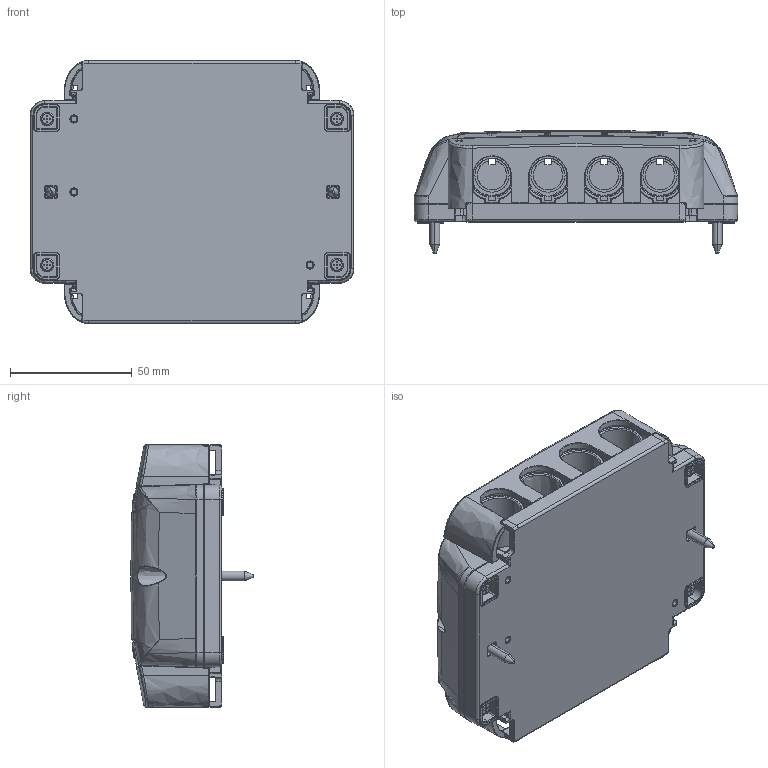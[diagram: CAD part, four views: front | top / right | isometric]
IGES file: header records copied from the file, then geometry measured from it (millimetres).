
Start section: SolidWorks IGES file using NURBS representation for surfaces
Global section: file name: C:\Users\lynn\Desktop\JB3\JB3.IGS; native system: SolidWorks 2015; preprocessor: SolidWorks 2015; author: lynn; date: 200114.090538; units: millimetre
Bounding box: 133 x 50.28 x 108 mm (x, y, z)
Surface area: 145856 mm2 (no closed solid volume)
Topology: 0 solids, 0 shells, 2836 faces, 24681 edges, 24612 vertices
Faces by surface type: bspline 2836
